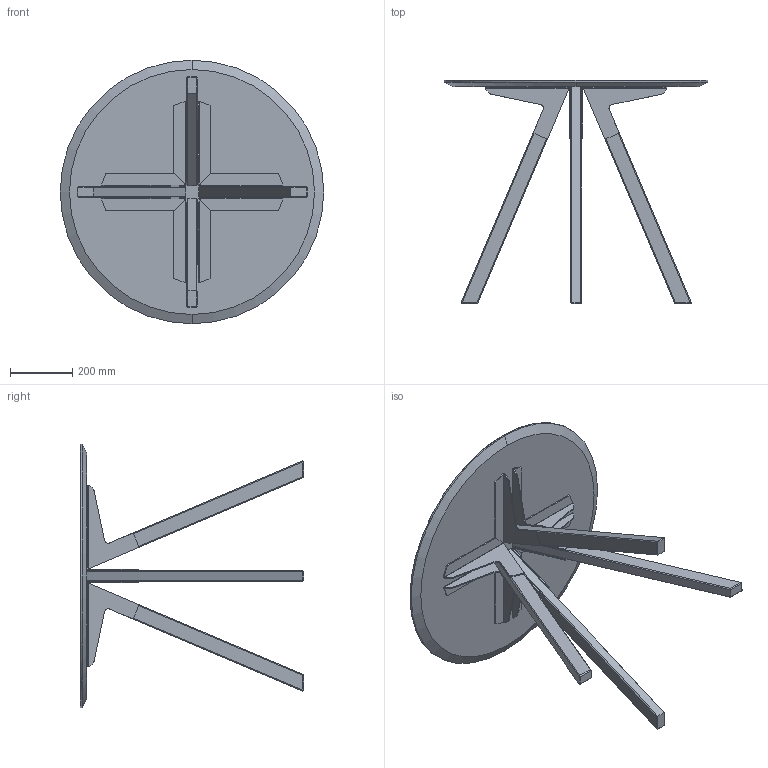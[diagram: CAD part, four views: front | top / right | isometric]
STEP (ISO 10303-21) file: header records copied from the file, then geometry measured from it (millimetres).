
FILE_DESCRIPTION (( 'STEP AP203' ), '1' );
FILE_NAME ('Stolik grande_defeature.STEP', '2020-08-17T09:13:14', ( '' ), ( '' ), 'SwSTEP 2.0', 'SolidWorks 2019', '' );
FILE_SCHEMA (( 'CONFIG_CONTROL_DESIGN' ));
Length unit declared in the file: millimetre
Products named in the file (13): Group6^Stolik grande_defeature; Group1^Stolik grande_defeature; Group3^Stolik grande_defeature; Blat stolika Latte 850 wzmocniony-1^Stolik grande_defeature; Group4^Stolik grande_defeature; Group5^Stolik grande_defeature; Stolik grande_defeature
Assembly tree (6 placements, depth 2):
  Group6^Stolik grande_defeature
  Group1^Stolik grande_defeature
  Group4^Stolik grande_defeature
  Stolik grande_defeature
    Group1^Stolik grande_defeature
    Group3^Stolik grande_defeature
    Group4^Stolik grande_defeature
    Group5^Stolik grande_defeature
    Group6^Stolik grande_defeature
    Blat stolika Latte 850 wzmocniony-1^Stolik grande_defeature
  Group3^Stolik grande_defeature
Bounding box: 850 x 720 x 850 mm (x, y, z)
Volume: 16907626.1 mm3; surface area: 2114881.5 mm2
Topology: 13 solids, 13 shells, 284 faces, 698 edges, 440 vertices
Faces by surface type: plane 182, cylinder 90, bspline 8, cone 2, torus 2
Entity records: 9807 total; most frequent: CARTESIAN_POINT 1856, DIRECTION 1424, ORIENTED_EDGE 1396, EDGE_CURVE 698, LINE 512, VECTOR 512, AXIS2_PLACEMENT_3D 456, VERTEX_POINT 440
